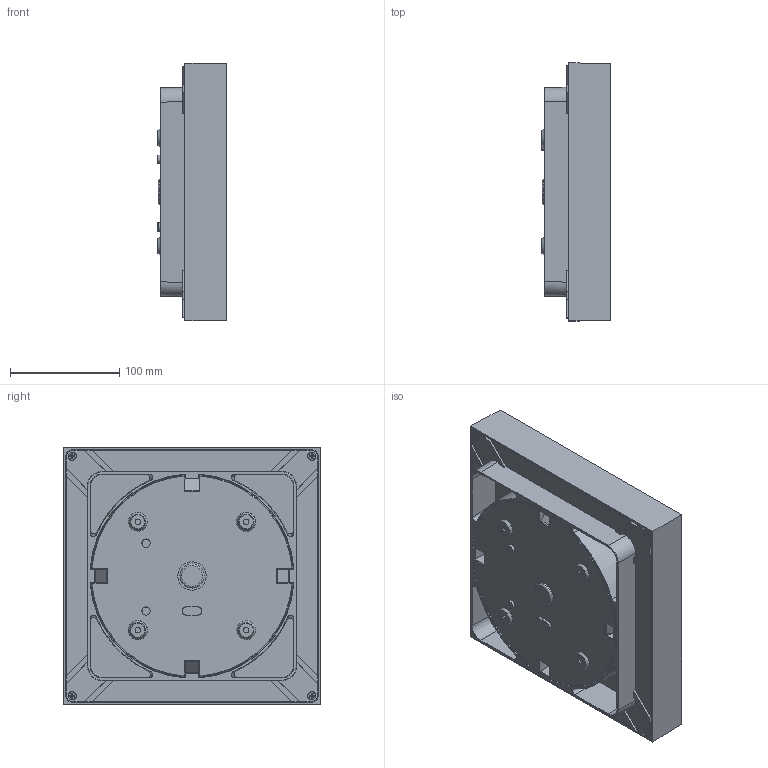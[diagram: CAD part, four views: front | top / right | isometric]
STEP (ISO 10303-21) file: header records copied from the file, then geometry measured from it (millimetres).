
FILE_DESCRIPTION (( 'STEP AP214' ), '1' );
FILE_NAME ('NEXUS-P2083171.STEP', '2026-01-15T06:19:37', ( '' ), ( '' ), 'SwSTEP 2.0', 'SolidWorks 2025', '' );
FILE_SCHEMA (( 'AUTOMOTIVE_DESIGN' ));
Length unit declared in the file: millimetre
Products named in the file (1): NEXUS-P2083171
Bounding box: 63 x 235.66 x 235.66 mm (x, y, z)
Volume: 683285.8 mm3; surface area: 514859.9 mm2
Topology: 10 solids, 10 shells, 822 faces, 2133 edges, 1383 vertices
Faces by surface type: plane 442, cylinder 153, cone 133, torus 42, bspline 37, sphere 15
Full cylindrical faces by diameter (mm): 2.5 x4, 3.2 x8, 3.241 x4, 3.545 x4, 4.5 x4, 5 x6, 6 x3, 7.2 x4, 7.5 x4, 18 x2, 21 x1, 22 x1, 26 x1
Entity records: 26111 total; most frequent: CARTESIAN_POINT 7222, ORIENTED_EDGE 3948, DIRECTION 3611, EDGE_CURVE 1974, VERTEX_POINT 1333, AXIS2_PLACEMENT_3D 1242, VECTOR 1127, LINE 1127
